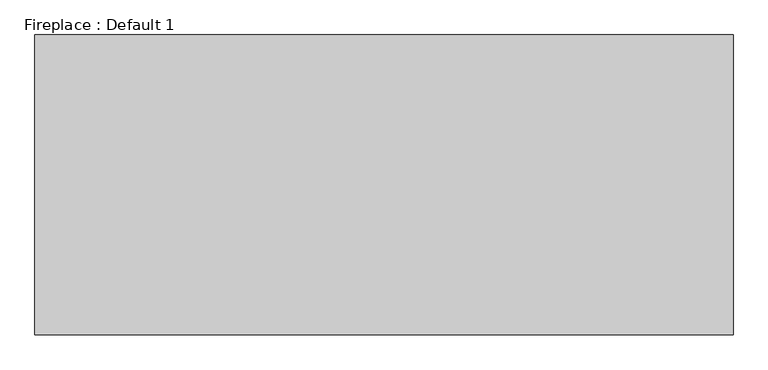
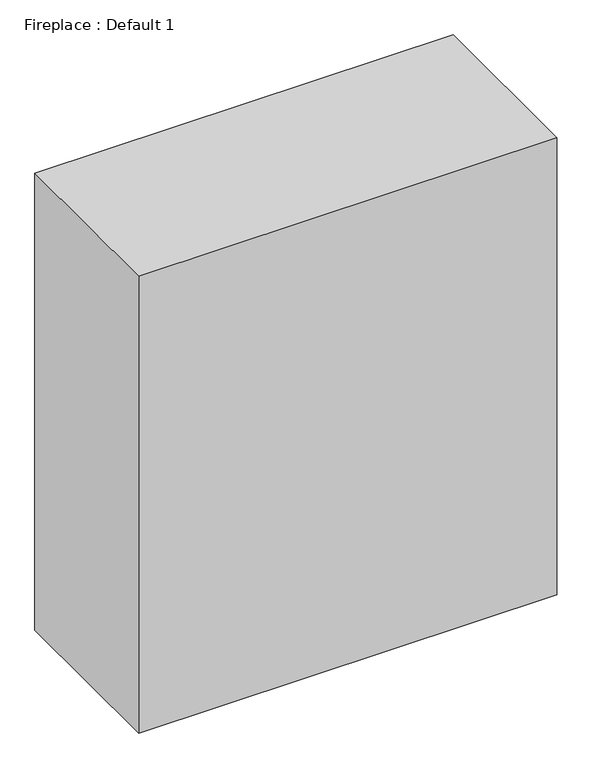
"""IFC4 building model written with IfcOpenShell, lengths in millimetres: proxy geometry, Fireplace : Default 1."""

from ifc_helpers import new_model, si_unit, origin, origin_with_axes, place, context, project, spatial, polyline, outline, extrude, source, transform, mapped, element, save


def fireplace_default_1_940fdbfd(model_context):
    return source(origin(), model_context, "Body", "SweptSolid", [
        extrude(outline(polyline([(923.925, -100.0), (923.925, -893.75), (-923.925, -893.75), (-923.925, -100.0), (923.925, -100.0)])), origin_with_axes(), (0.0, 0.0, 1.0), 2133.6),
    ])


if __name__ == "__main__":
    model = new_model("IFC4")
    model_context = context("Model", 3, world=origin())
    ifc_project = project(units=[si_unit("LENGTHUNIT", "METRE", prefix="MILLI")], contexts=[model_context])
    site = spatial("IfcSite", under=ifc_project)
    building = spatial("IfcBuilding", under=site)
    placement = place(None, origin())
    fireplace_default_1_shape = fireplace_default_1_940fdbfd(model_context)
    element("IfcBuildingElementProxy", 1, Name="Fireplace : Default 1", ObjectType="Fireplace : Default 1", at=placement, inside=building, context=model_context, shape_type="MappedRepresentation", body=[
        mapped(fireplace_default_1_shape, transform((0.0, 0.0, 0.0), x_axis=(1.0, 0.0, 0.0), y_axis=(0.0, 1.0, 0.0), z_axis=(0.0, 0.0, 1.0))),
    ])
    save(model, "model.ifc")
